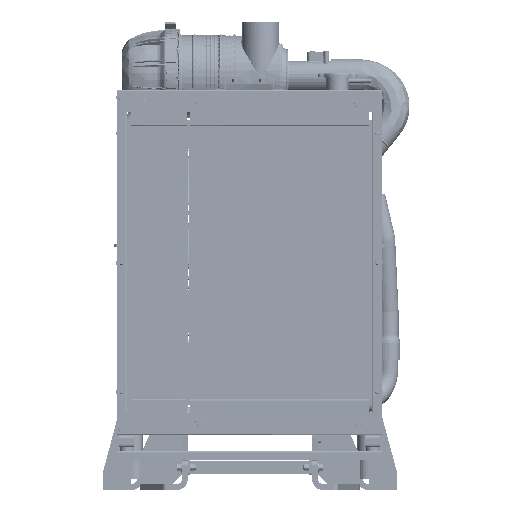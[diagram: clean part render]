
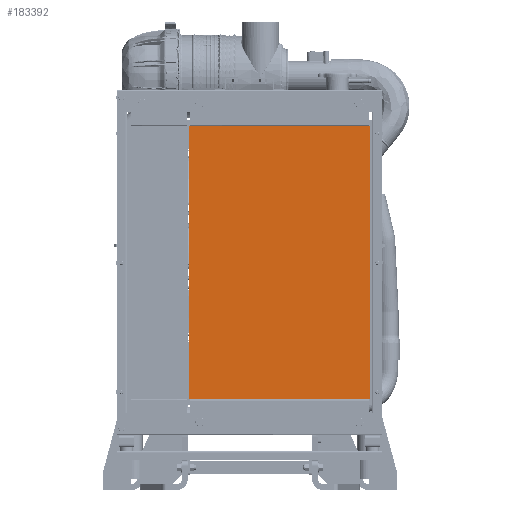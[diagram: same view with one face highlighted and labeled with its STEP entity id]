
A CAD part, left-side view. The second image highlights one B-rep face of the part: STEP entity #183392.
In plain terms, the highlighted planar face has unit normal (-1, 0, 0) as drawn and (0, 0, -1) by its records, which use the part's own axes.
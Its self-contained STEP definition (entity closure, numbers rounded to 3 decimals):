
#183340=CARTESIAN_POINT('Vertex',(368.2,0.,0.)) ;
#183343=CARTESIAN_POINT('Line Origine',(183.6,0.,0.)) ;
#183347=CARTESIAN_POINT('Vertex',(-1.,0.,0.)) ;
#183362=CARTESIAN_POINT('Axis2P3D Location',(183.6,-280.,0.)) ;
#183367=CARTESIAN_POINT('Line Origine',(183.6,-560.,0.)) ;
#183371=CARTESIAN_POINT('Vertex',(-1.,-560.,0.)) ;
#183373=CARTESIAN_POINT('Vertex',(368.2,-560.,0.)) ;
#183376=CARTESIAN_POINT('Line Origine',(-1.,-280.,0.)) ;
#183381=CARTESIAN_POINT('Line Origine',(368.2,-280.,0.)) ;
#183344=DIRECTION('Vector Direction',(-1.,0.,0.)) ;
#183363=DIRECTION('Axis2P3D Direction',(0.,0.,-1.)) ;
#183364=DIRECTION('Axis2P3D XDirection',(0.,-1.,0.)) ;
#183368=DIRECTION('Vector Direction',(1.,0.,0.)) ;
#183377=DIRECTION('Vector Direction',(0.,-1.,0.)) ;
#183382=DIRECTION('Vector Direction',(0.,1.,0.)) ;
#183365=AXIS2_PLACEMENT_3D('Plane Axis2P3D',#183362,#183363,#183364) ;
#183387=ORIENTED_EDGE('',*,*,#183375,.F.) ;
#183388=ORIENTED_EDGE('',*,*,#183380,.F.) ;
#183389=ORIENTED_EDGE('',*,*,#183349,.F.) ;
#183390=ORIENTED_EDGE('',*,*,#183385,.F.) ;
#183345=VECTOR('Line Direction',#183344,1.) ;
#183369=VECTOR('Line Direction',#183368,1.) ;
#183378=VECTOR('Line Direction',#183377,1.) ;
#183383=VECTOR('Line Direction',#183382,1.) ;
#183392=ADVANCED_FACE('NAUO1|NAUO113|NAUO127|prd01348149',(#183391),#183366,.T.) ;
#183349=EDGE_CURVE('',#183341,#183348,#183346,.T.) ;
#183375=EDGE_CURVE('',#183372,#183374,#183370,.T.) ;
#183380=EDGE_CURVE('',#183348,#183372,#183379,.T.) ;
#183385=EDGE_CURVE('',#183374,#183341,#183384,.T.) ;
#183386=EDGE_LOOP('',(#183387,#183388,#183389,#183390)) ;
#183391=FACE_OUTER_BOUND('',#183386,.T.) ;
#183346=LINE('Line',#183343,#183345) ;
#183370=LINE('Line',#183367,#183369) ;
#183379=LINE('Line',#183376,#183378) ;
#183384=LINE('Line',#183381,#183383) ;
#183366=PLANE('',#183365) ;
#183341=VERTEX_POINT('',#183340) ;
#183348=VERTEX_POINT('',#183347) ;
#183372=VERTEX_POINT('',#183371) ;
#183374=VERTEX_POINT('',#183373) ;
